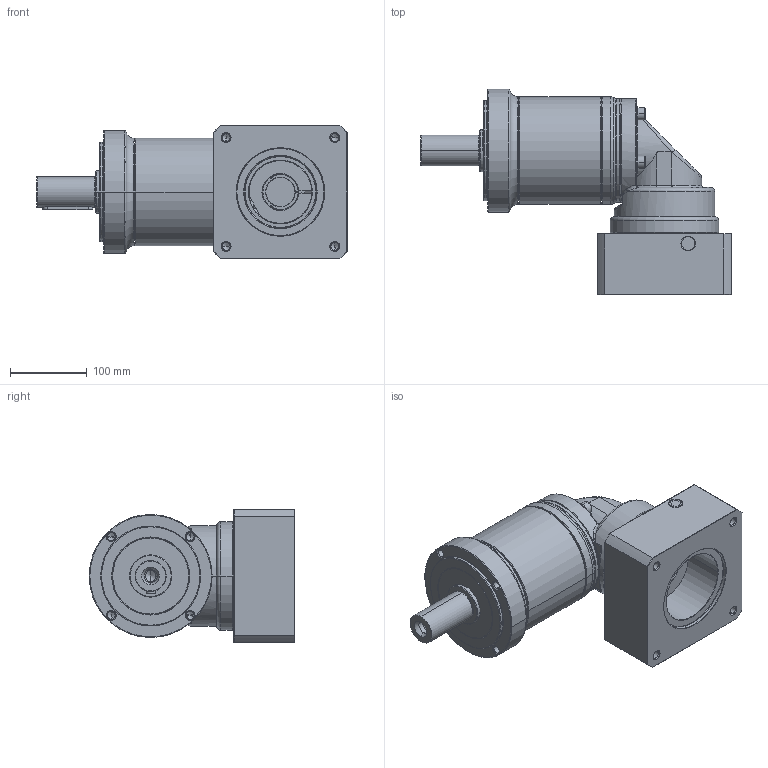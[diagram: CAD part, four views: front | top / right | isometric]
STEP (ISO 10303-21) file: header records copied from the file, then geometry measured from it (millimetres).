
FILE_DESCRIPTION((''),'2;1');
FILE_NAME('PG2R-160_2ST_38-P0411900101_ASM','2016-04-26T',('d01943'),(''),'PRO/ENGINEER BY PARAMETRIC TECHNOLOGY CORPORATION, 2008410','PRO/ENGINEER BY PARAMETRIC TECHNOLOGY CORPORATION, 2008410','');
FILE_SCHEMA(('CONFIG_CONTROL_DESIGN'));
Length unit declared in the file: millimetre
Products named in the file (12): P1325510001; P0251500001; P0350501103; P1349500001; P1017500001; P0713505001; P0503900010; P1350500501; P0411900101; P1702600001; 2111BA10040; PG2R-160_2ST_38-P0411900101_ASM
Assembly tree (14 placements, depth 2):
  PG2R-160_2ST_38-P0411900101_ASM
    P1325510001
    P0251500001
    P0350501103
    P1349500001
    P1017500001
    P0713505001
    P0503900010
    P1350500501
    P0411900101
    P1702600001
    2111BA10040  x4
Bounding box: 404 x 267.5 x 174 mm (x, y, z)
Volume: 4654666.7 mm3; surface area: 603484.5 mm2
Topology: 14 solids, 15 shells, 716 faces, 1573 edges, 912 vertices
Faces by surface type: cylinder 221, cone 200, plane 157, torus 106, bspline 32
Entity records: 22872 total; most frequent: CARTESIAN_POINT 9040, DIRECTION 3075, ORIENTED_EDGE 2670, EDGE_CURVE 1335, AXIS2_PLACEMENT_3D 1302, VERTEX_POINT 792, EDGE_LOOP 695, CIRCLE 691
